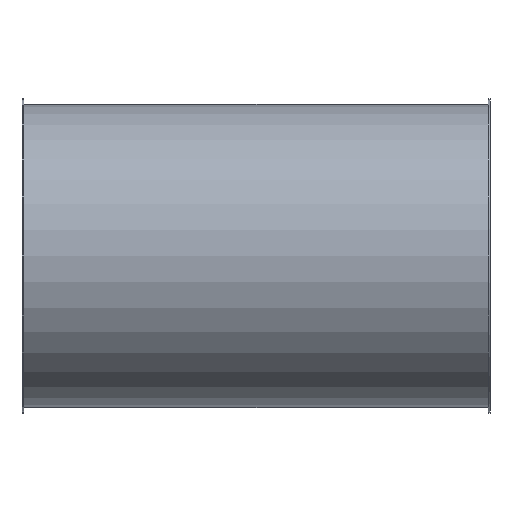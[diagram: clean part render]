
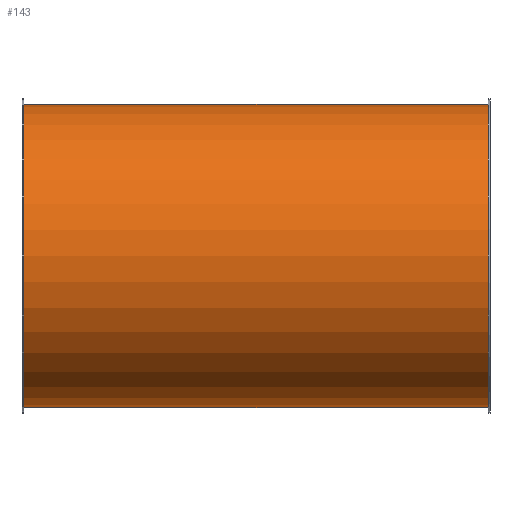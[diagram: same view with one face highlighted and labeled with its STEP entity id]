
A CAD part, front view. The second image highlights one B-rep face of the part: STEP entity #143.
In plain terms, the highlighted cylindrical face has radius 158 mm (diameter 316 mm), a full revolution.
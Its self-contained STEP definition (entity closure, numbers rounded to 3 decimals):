
#112=CARTESIAN_POINT('',(454.119,2.817,0.0));
#113=VERTEX_POINT('',#112);
#114=CARTESIAN_POINT('',(454.119,160.817,0.0));
#115=DIRECTION('',(-1.0,0.0,0.0));
#116=DIRECTION('',(0.0,-1.0,0.0));
#117=AXIS2_PLACEMENT_3D('',#114,#115,#116);
#118=CIRCLE('',#117,158.);
#119=EDGE_CURVE('',#113,#113,#118,.T.);
#124=CARTESIAN_POINT('',(212.119,160.817,0.0));
#125=DIRECTION('',(-1.0,0.,0.0));
#126=DIRECTION('',(0.0,-1.0,0.0));
#127=AXIS2_PLACEMENT_3D('',#124,#125,#126);
#128=CYLINDRICAL_SURFACE('',#127,158.);
#129=CARTESIAN_POINT('',(-29.881,2.817,0.0));
#130=VERTEX_POINT('',#129);
#131=CARTESIAN_POINT('',(-29.881,160.817,0.0));
#132=DIRECTION('',(-1.0,0.0,0.0));
#133=DIRECTION('',(0.0,-1.0,0.0));
#134=AXIS2_PLACEMENT_3D('',#131,#132,#133);
#135=CIRCLE('',#134,158.);
#136=EDGE_CURVE('',#130,#130,#135,.T.);
#137=ORIENTED_EDGE('',*,*,#136,.F.);
#138=EDGE_LOOP('',(#137));
#139=FACE_OUTER_BOUND('',#138,.T.);
#140=ORIENTED_EDGE('',*,*,#119,.T.);
#141=EDGE_LOOP('',(#140));
#142=FACE_BOUND('',#141,.T.);
#143=ADVANCED_FACE('',(#139,#142),#128,.T.);
